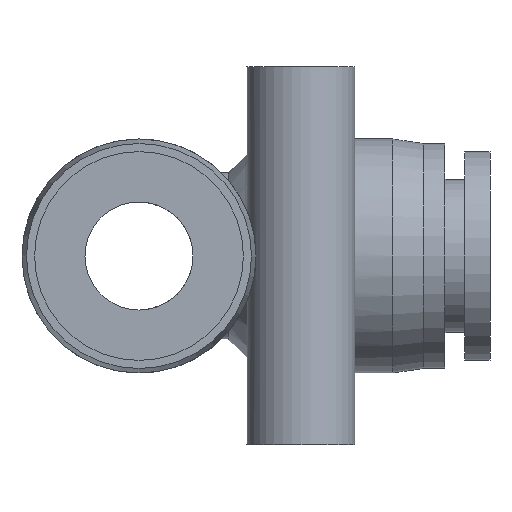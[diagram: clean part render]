
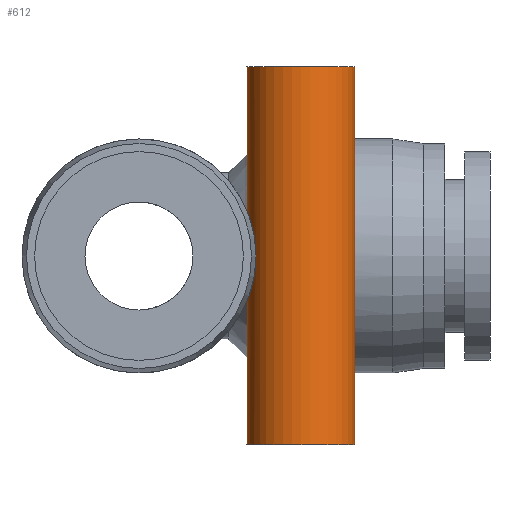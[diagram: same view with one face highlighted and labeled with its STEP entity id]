
A CAD part, left-side view. The second image highlights one B-rep face of the part: STEP entity #612.
In plain terms, the highlighted cylindrical face has radius 3 mm (diameter 6 mm), a full revolution.
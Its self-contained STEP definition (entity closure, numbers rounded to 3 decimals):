
#408=CARTESIAN_POINT('',(-7.371,-6.481,-0.5));
#409=VERTEX_POINT('',#408);
#462=CARTESIAN_POINT('',(-6.481,-7.371,-0.5));
#463=VERTEX_POINT('',#462);
#470=CARTESIAN_POINT('',(-9.0,-9.0,-0.5));
#471=DIRECTION('',(0.0,0.0,1.0));
#472=DIRECTION('',(1.0,0.0,0.0));
#473=AXIS2_PLACEMENT_3D('',#470,#471,#472);
#474=CIRCLE('',#473,3.0);
#475=EDGE_CURVE('',#463,#409,#474,.T.);
#480=CARTESIAN_POINT('',(-9.0,-9.0,0.0));
#481=DIRECTION('',(0.0,0.0,-1.0));
#482=DIRECTION('',(1.0,0.0,0.0));
#483=AXIS2_PLACEMENT_3D('',#480,#481,#482);
#484=CYLINDRICAL_SURFACE('',#483,3.0);
#485=CARTESIAN_POINT('',(-12.,-9.0,-10.5));
#486=VERTEX_POINT('',#485);
#487=CARTESIAN_POINT('',(-9.0,-9.0,-10.5));
#488=DIRECTION('',(0.0,0.0,-1.0));
#489=DIRECTION('',(1.0,0.0,0.0));
#490=AXIS2_PLACEMENT_3D('',#487,#488,#489);
#491=CIRCLE('',#490,3.0);
#492=EDGE_CURVE('',#486,#486,#491,.T.);
#493=ORIENTED_EDGE('',*,*,#492,.F.);
#494=EDGE_LOOP('',(#493));
#495=FACE_OUTER_BOUND('',#494,.T.);
#496=CARTESIAN_POINT('',(-12.,-9.0,10.5));
#497=VERTEX_POINT('',#496);
#498=CARTESIAN_POINT('',(-9.0,-9.0,10.5));
#499=DIRECTION('',(0.0,0.0,1.0));
#500=DIRECTION('',(1.0,0.0,0.0));
#501=AXIS2_PLACEMENT_3D('',#498,#499,#500);
#502=CIRCLE('',#501,3.0);
#503=EDGE_CURVE('',#497,#497,#502,.T.);
#504=ORIENTED_EDGE('',*,*,#503,.F.);
#505=EDGE_LOOP('',(#504));
#506=FACE_BOUND('',#505,.T.);
#507=CARTESIAN_POINT('',(-7.371,-6.481,0.5));
#508=VERTEX_POINT('',#507);
#509=CARTESIAN_POINT('',(-7.371,-6.481,-0.5));
#510=CARTESIAN_POINT('',(-7.402,-6.461,-0.755));
#511=CARTESIAN_POINT('',(-7.457,-6.426,-1.01));
#512=CARTESIAN_POINT('',(-7.61,-6.34,-1.446));
#513=CARTESIAN_POINT('',(-7.699,-6.294,-1.633));
#514=CARTESIAN_POINT('',(-7.923,-6.197,-1.968));
#515=CARTESIAN_POINT('',(-8.056,-6.147,-2.116));
#516=CARTESIAN_POINT('',(-8.324,-6.075,-2.313));
#517=CARTESIAN_POINT('',(-8.451,-6.048,-2.383));
#518=CARTESIAN_POINT('',(-8.721,-6.01,-2.477));
#519=CARTESIAN_POINT('',(-8.865,-6.0,-2.5));
#520=CARTESIAN_POINT('',(-9.135,-6.0,-2.5));
#521=CARTESIAN_POINT('',(-9.279,-6.01,-2.477));
#522=CARTESIAN_POINT('',(-9.549,-6.048,-2.383));
#523=CARTESIAN_POINT('',(-9.676,-6.075,-2.313));
#524=CARTESIAN_POINT('',(-9.944,-6.147,-2.116));
#525=CARTESIAN_POINT('',(-10.077,-6.197,-1.968));
#526=CARTESIAN_POINT('',(-10.301,-6.294,-1.633));
#527=CARTESIAN_POINT('',(-10.39,-6.34,-1.446));
#528=CARTESIAN_POINT('',(-10.599,-6.456,-0.852));
#529=CARTESIAN_POINT('',(-10.658,-6.5,-0.412));
#530=CARTESIAN_POINT('',(-10.658,-6.5,0.0));
#531=CARTESIAN_POINT('',(-10.658,-6.5,0.412));
#532=CARTESIAN_POINT('',(-10.599,-6.456,0.852));
#533=CARTESIAN_POINT('',(-10.39,-6.34,1.446));
#534=CARTESIAN_POINT('',(-10.301,-6.294,1.633));
#535=CARTESIAN_POINT('',(-10.077,-6.197,1.968));
#536=CARTESIAN_POINT('',(-9.944,-6.147,2.116));
#537=CARTESIAN_POINT('',(-9.676,-6.075,2.313));
#538=CARTESIAN_POINT('',(-9.549,-6.048,2.383));
#539=CARTESIAN_POINT('',(-9.279,-6.01,2.477));
#540=CARTESIAN_POINT('',(-9.135,-6.0,2.5));
#541=CARTESIAN_POINT('',(-8.865,-6.0,2.5));
#542=CARTESIAN_POINT('',(-8.721,-6.01,2.477));
#543=CARTESIAN_POINT('',(-8.451,-6.048,2.383));
#544=CARTESIAN_POINT('',(-8.324,-6.075,2.313));
#545=CARTESIAN_POINT('',(-8.056,-6.147,2.116));
#546=CARTESIAN_POINT('',(-7.923,-6.197,1.968));
#547=CARTESIAN_POINT('',(-7.699,-6.294,1.633));
#548=CARTESIAN_POINT('',(-7.61,-6.34,1.446));
#549=CARTESIAN_POINT('',(-7.457,-6.426,1.01));
#550=CARTESIAN_POINT('',(-7.402,-6.461,0.755));
#551=CARTESIAN_POINT('',(-7.371,-6.481,0.5));
#552=B_SPLINE_CURVE_WITH_KNOTS('',3,(#509,#510,#511,#512,#513,#514,#515,#516,#517,#518,#519,#520,#521,#522,#523,#524,#525,#526,#527,#528,#529,#530,#531,#532,#533,#534,#535,#536,#537,#538,#539,#540,#541,#542,#543,#544,#545,#546,#547,#548,#549,#550,#551),.UNSPECIFIED.,.F.,.U.,(4,2,2,2,2,2,2,2,2,2,3,2,2,2,2,2,2,2,2,2,4),(0.704,0.779,0.841,0.902,0.943,0.983,1.023,1.064,1.126,1.187,1.311,1.434,1.496,1.558,1.598,1.638,1.679,1.719,1.781,1.843,1.917),.UNSPECIFIED.);
#553=EDGE_CURVE('',#409,#508,#552,.T.);
#554=ORIENTED_EDGE('',*,*,#553,.F.);
#555=ORIENTED_EDGE('',*,*,#475,.F.);
#556=CARTESIAN_POINT('',(-6.481,-7.371,0.5));
#557=VERTEX_POINT('',#556);
#558=CARTESIAN_POINT('',(-6.481,-7.371,0.5));
#559=CARTESIAN_POINT('',(-6.461,-7.402,0.755));
#560=CARTESIAN_POINT('',(-6.426,-7.457,1.01));
#561=CARTESIAN_POINT('',(-6.34,-7.61,1.446));
#562=CARTESIAN_POINT('',(-6.294,-7.699,1.633));
#563=CARTESIAN_POINT('',(-6.197,-7.923,1.968));
#564=CARTESIAN_POINT('',(-6.147,-8.056,2.116));
#565=CARTESIAN_POINT('',(-6.075,-8.324,2.313));
#566=CARTESIAN_POINT('',(-6.048,-8.451,2.383));
#567=CARTESIAN_POINT('',(-6.01,-8.721,2.477));
#568=CARTESIAN_POINT('',(-6.0,-8.865,2.5));
#569=CARTESIAN_POINT('',(-6.0,-9.135,2.5));
#570=CARTESIAN_POINT('',(-6.01,-9.279,2.477));
#571=CARTESIAN_POINT('',(-6.048,-9.549,2.383));
#572=CARTESIAN_POINT('',(-6.075,-9.676,2.313));
#573=CARTESIAN_POINT('',(-6.147,-9.944,2.116));
#574=CARTESIAN_POINT('',(-6.197,-10.077,1.968));
#575=CARTESIAN_POINT('',(-6.294,-10.301,1.633));
#576=CARTESIAN_POINT('',(-6.34,-10.39,1.446));
#577=CARTESIAN_POINT('',(-6.456,-10.599,0.852));
#578=CARTESIAN_POINT('',(-6.5,-10.658,0.412));
#579=CARTESIAN_POINT('',(-6.5,-10.658,-0.412));
#580=CARTESIAN_POINT('',(-6.456,-10.599,-0.852));
#581=CARTESIAN_POINT('',(-6.34,-10.39,-1.446));
#582=CARTESIAN_POINT('',(-6.294,-10.301,-1.633));
#583=CARTESIAN_POINT('',(-6.197,-10.077,-1.968));
#584=CARTESIAN_POINT('',(-6.147,-9.944,-2.116));
#585=CARTESIAN_POINT('',(-6.075,-9.676,-2.313));
#586=CARTESIAN_POINT('',(-6.048,-9.549,-2.383));
#587=CARTESIAN_POINT('',(-6.01,-9.279,-2.477));
#588=CARTESIAN_POINT('',(-6.0,-9.135,-2.5));
#589=CARTESIAN_POINT('',(-6.0,-8.865,-2.5));
#590=CARTESIAN_POINT('',(-6.01,-8.721,-2.477));
#591=CARTESIAN_POINT('',(-6.048,-8.451,-2.383));
#592=CARTESIAN_POINT('',(-6.075,-8.324,-2.313));
#593=CARTESIAN_POINT('',(-6.147,-8.056,-2.116));
#594=CARTESIAN_POINT('',(-6.197,-7.923,-1.968));
#595=CARTESIAN_POINT('',(-6.294,-7.699,-1.633));
#596=CARTESIAN_POINT('',(-6.34,-7.61,-1.446));
#597=CARTESIAN_POINT('',(-6.426,-7.457,-1.01));
#598=CARTESIAN_POINT('',(-6.461,-7.402,-0.755));
#599=CARTESIAN_POINT('',(-6.481,-7.371,-0.5));
#600=B_SPLINE_CURVE_WITH_KNOTS('',3,(#558,#559,#560,#561,#562,#563,#564,#565,#566,#567,#568,#569,#570,#571,#572,#573,#574,#575,#576,#577,#578,#579,#580,#581,#582,#583,#584,#585,#586,#587,#588,#589,#590,#591,#592,#593,#594,#595,#596,#597,#598,#599),.UNSPECIFIED.,.F.,.U.,(4,2,2,2,2,2,2,2,2,2,2,2,2,2,2,2,2,2,2,2,4),(0.049,0.123,0.185,0.247,0.287,0.328,0.368,0.408,0.47,0.532,0.655,0.779,0.841,0.902,0.943,0.983,1.023,1.064,1.126,1.187,1.262),.UNSPECIFIED.);
#601=EDGE_CURVE('',#557,#463,#600,.T.);
#602=ORIENTED_EDGE('',*,*,#601,.F.);
#603=CARTESIAN_POINT('',(-9.0,-9.0,0.5));
#604=DIRECTION('',(0.0,0.0,-1.0));
#605=DIRECTION('',(1.0,0.0,0.0));
#606=AXIS2_PLACEMENT_3D('',#603,#604,#605);
#607=CIRCLE('',#606,3.0);
#608=EDGE_CURVE('',#508,#557,#607,.T.);
#609=ORIENTED_EDGE('',*,*,#608,.F.);
#610=EDGE_LOOP('',(#554,#555,#602,#609));
#611=FACE_BOUND('',#610,.T.);
#612=ADVANCED_FACE('',(#495,#506,#611),#484,.T.);
